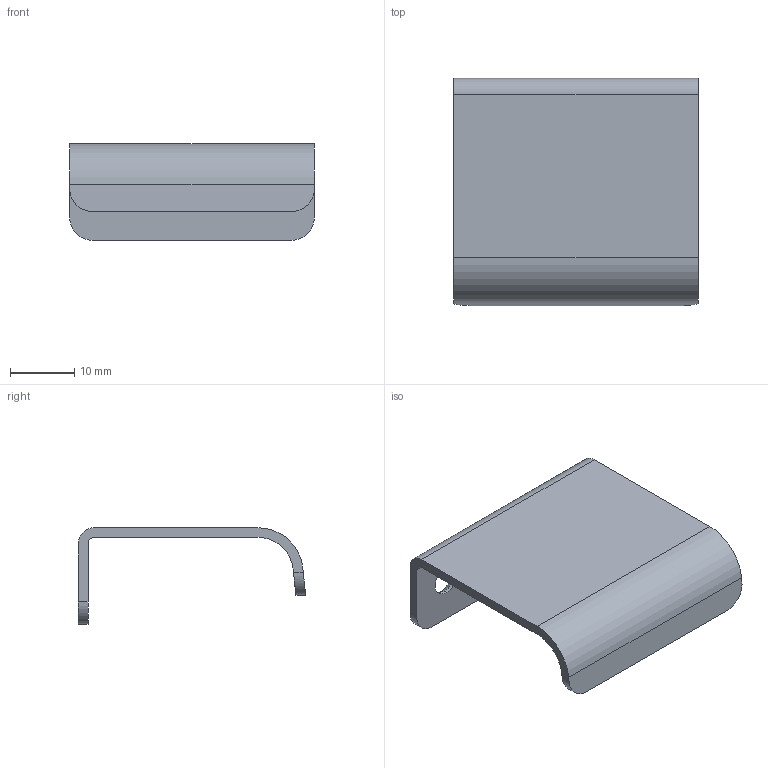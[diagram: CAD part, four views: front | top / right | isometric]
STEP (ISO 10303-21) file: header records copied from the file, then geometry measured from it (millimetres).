
FILE_DESCRIPTION( ( '' ), '1' );
FILE_NAME( 'C:/Documents and Settings/Sachin/Desktop/Sheet 10_1/stp/9995540.stp', '2013-10-22T11:35:58', ( '' ), ( '' ), ' ', ' ', ' ' );
FILE_SCHEMA( ( 'CONFIG_CONTROL_DESIGN' ) );
Length unit declared in the file: millimetre
Products named in the file (1): 1
Bounding box: 38 x 35.33 x 15 mm (x, y, z)
Volume: 2990.8 mm3; surface area: 4306.1 mm2
Topology: 1 solids, 1 shells, 26 faces, 68 edges, 44 vertices
Faces by surface type: cylinder 12, plane 10, cone 4
Entity records: 860 total; most frequent: DIRECTION 150, CARTESIAN_POINT 139, ORIENTED_EDGE 136, EDGE_CURVE 68, AXIS2_PLACEMENT_3D 55, VERTEX_POINT 44, LINE 40, VECTOR 40
